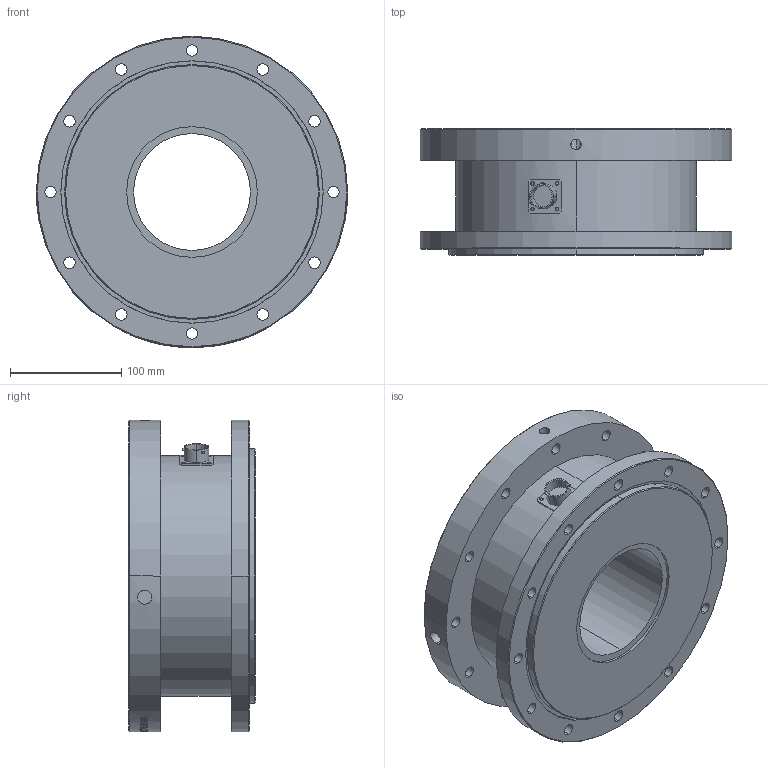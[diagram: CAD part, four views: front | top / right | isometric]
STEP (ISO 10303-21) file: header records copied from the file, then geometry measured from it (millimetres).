
FILE_DESCRIPTION (( 'STEP AP214' ), '1' );
FILE_NAME ('HD-REAC-ASSY - Reaction Torque Sensor Assembly.STEP', '2017-11-28T20:21:06', ( '' ), ( '' ), 'SwSTEP 2.0', 'SolidWorks 2016', '' );
FILE_SCHEMA (( 'AUTOMOTIVE_DESIGN' ));
Length unit declared in the file: inch
Products named in the file (1): HD-REAC-ASSY - Reaction Torque Sensor Assembly
Bounding box: 279.4 x 113.51 x 279.4 mm (x, y, z)
Volume: 4005555.7 mm3; surface area: 300554.9 mm2
Topology: 1 solids, 1 shells, 378 faces, 990 edges, 656 vertices
Faces by surface type: plane 200, cylinder 116, bspline 50, cone 8, torus 4
Entity records: 19787 total; most frequent: CARTESIAN_POINT 5944, ORIENTED_EDGE 1980, DIRECTION 1684, EDGE_CURVE 990, VERTEX_POINT 656, AXIS2_PLACEMENT_3D 641, EDGE_LOOP 472, LINE 402
